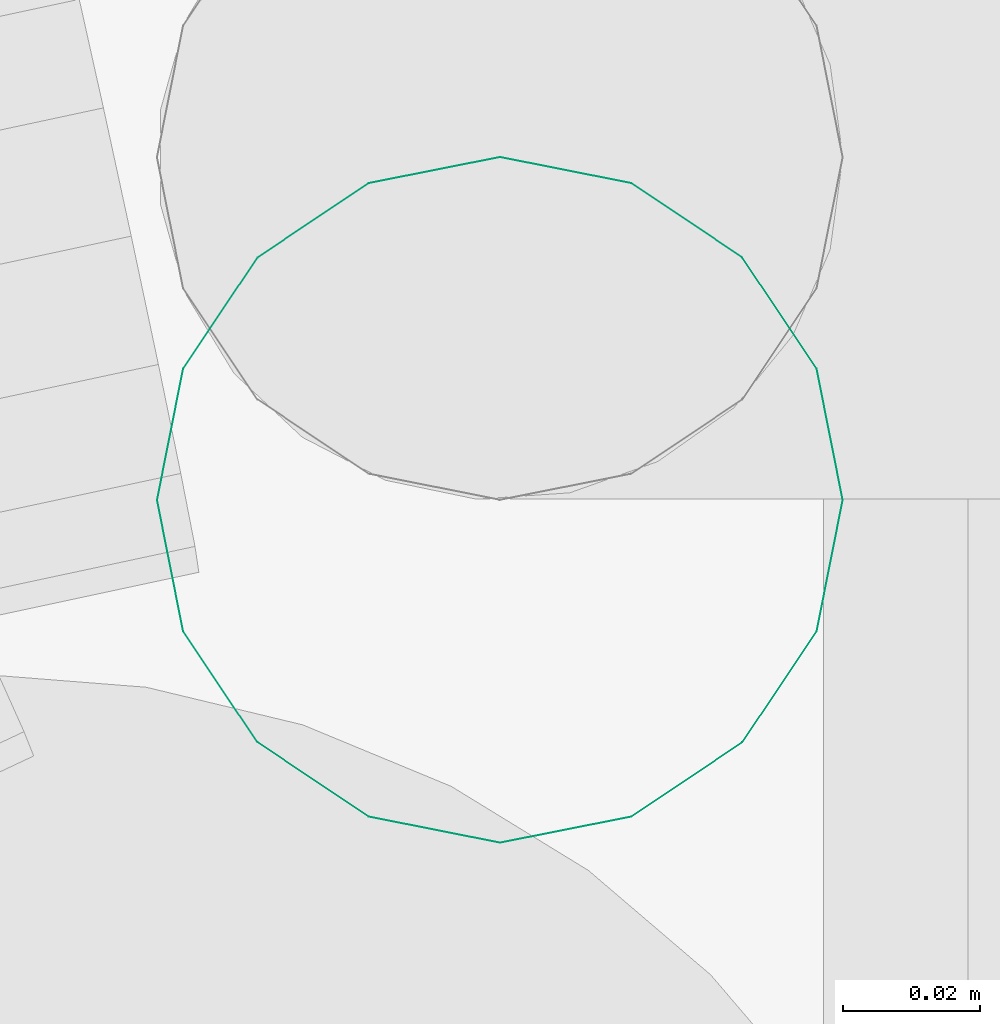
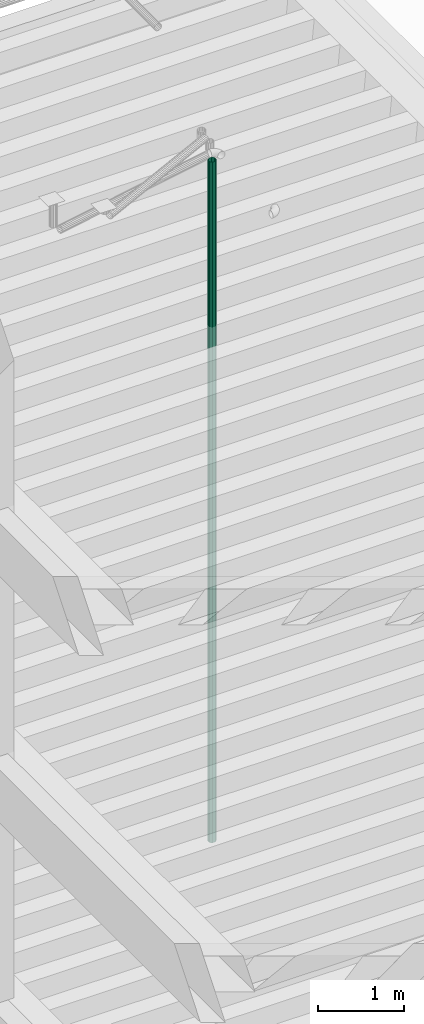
# One storey, part 44 of 106: 1 flow segment.
"""IFC2X3 building model written with IfcOpenShell, lengths in metres."""

from ifc_helpers import new_model, entity, si_unit, converted_unit, derived_unit, money_unit, direction, frame, origin_with_axes, place, context, subcontext, project, spatial, faceted_brep, material, type_object, element, save


model = new_model("IFC2X3")

# Units and contexts
model_context = context("Model", 3, precision=1e-05, world=origin_with_axes(), true_north=direction((0.0, 1.0)))
body_context = subcontext(model_context, "Body", "Model", "MODEL_VIEW", scale=1.0)
ifc_project = project(units=[si_unit("LENGTHUNIT", "METRE"), si_unit("AREAUNIT", "SQUARE_METRE"), si_unit("VOLUMEUNIT", "CUBIC_METRE"), si_unit("ABSORBEDDOSEUNIT", "GRAY"), si_unit("AMOUNTOFSUBSTANCEUNIT", "MOLE"), si_unit("DOSEEQUIVALENTUNIT", "SIEVERT"), si_unit("ELECTRICCAPACITANCEUNIT", "FARAD"), si_unit("ELECTRICCHARGEUNIT", "COULOMB"), si_unit("ELECTRICCONDUCTANCEUNIT", "SIEMENS"), si_unit("ELECTRICCURRENTUNIT", "AMPERE"), si_unit("ELECTRICRESISTANCEUNIT", "OHM"), si_unit("ELECTRICVOLTAGEUNIT", "VOLT"), si_unit("ENERGYUNIT", "JOULE"), si_unit("FORCEUNIT", "NEWTON"), si_unit("FREQUENCYUNIT", "HERTZ"), si_unit("ILLUMINANCEUNIT", "LUX"), si_unit("INDUCTANCEUNIT", "HENRY"), si_unit("LUMINOUSFLUXUNIT", "LUMEN"), si_unit("LUMINOUSINTENSITYUNIT", "CANDELA"), si_unit("MAGNETICFLUXDENSITYUNIT", "TESLA"), si_unit("MAGNETICFLUXUNIT", "WEBER"), si_unit("MASSUNIT", "GRAM"), converted_unit("PLANEANGLEUNIT", "degree", entity("IfcReal", 0.0174532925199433), si_unit("PLANEANGLEUNIT", "RADIAN"), dimensions=[0, 0, 0, 0, 0, 0, 0]), si_unit("POWERUNIT", "WATT"), si_unit("PRESSUREUNIT", "PASCAL"), si_unit("RADIOACTIVITYUNIT", "BECQUEREL"), si_unit("SOLIDANGLEUNIT", "STERADIAN"), si_unit("THERMODYNAMICTEMPERATUREUNIT", "KELVIN"), si_unit("TIMEUNIT", "SECOND"), derived_unit("ACCELERATIONUNIT", [(si_unit("LENGTHUNIT", "METRE"), 1), (si_unit("TIMEUNIT", "SECOND"), -2)]), derived_unit("ANGULARVELOCITYUNIT", [(converted_unit("PLANEANGLEUNIT", "degree", entity("IfcReal", 0.0174532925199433), si_unit("PLANEANGLEUNIT", "RADIAN"), dimensions=[0, 0, 0, 0, 0, 0, 0]), 1), (si_unit("TIMEUNIT", "SECOND"), -1)]), derived_unit("CURVATUREUNIT", [(converted_unit("PLANEANGLEUNIT", "degree", entity("IfcReal", 0.0174532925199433), si_unit("PLANEANGLEUNIT", "RADIAN"), dimensions=[0, 0, 0, 0, 0, 0, 0]), 1), (si_unit("LENGTHUNIT", "METRE"), -1)]), derived_unit("DYNAMICVISCOSITYUNIT", [(si_unit("PRESSUREUNIT", "PASCAL"), 1), (si_unit("TIMEUNIT", "SECOND"), 1)]), derived_unit("HEATFLUXDENSITYUNIT", [(si_unit("POWERUNIT", "WATT"), 1), (si_unit("LENGTHUNIT", "METRE"), -2)]), derived_unit("HEATINGVALUEUNIT", [(si_unit("ENERGYUNIT", "JOULE"), 1), (si_unit("MASSUNIT", "GRAM"), -1)]), derived_unit("INTEGERCOUNTRATEUNIT", [(si_unit("TIMEUNIT", "SECOND"), -1)]), derived_unit("IONCONCENTRATIONUNIT", [(si_unit("MASSUNIT", "GRAM"), 1), (si_unit("VOLUMEUNIT", "CUBIC_METRE"), -1)]), derived_unit("ISOTHERMALMOISTURECAPACITYUNIT", [(si_unit("VOLUMEUNIT", "CUBIC_METRE"), 1), (si_unit("MASSUNIT", "GRAM"), -1)]), derived_unit("KINEMATICVISCOSITYUNIT", [(si_unit("AREAUNIT", "SQUARE_METRE"), 1), (si_unit("TIMEUNIT", "SECOND"), -1)]), derived_unit("LINEARFORCEUNIT", [(si_unit("FORCEUNIT", "NEWTON"), 1), (si_unit("LENGTHUNIT", "METRE"), -1)]), derived_unit("LINEARMOMENTUNIT", [(si_unit("FORCEUNIT", "NEWTON"), 1), (si_unit("LENGTHUNIT", "METRE"), -1)]), derived_unit("LINEARSTIFFNESSUNIT", [(si_unit("FORCEUNIT", "NEWTON"), 1), (si_unit("LENGTHUNIT", "METRE"), -1)]), derived_unit("LINEARVELOCITYUNIT", [(si_unit("LENGTHUNIT", "METRE"), 1), (si_unit("TIMEUNIT", "SECOND"), -1)]), derived_unit("LUMINOUSINTENSITYDISTRIBUTIONUNIT", [(si_unit("LUMINOUSINTENSITYUNIT", "CANDELA"), 1), (si_unit("LUMINOUSFLUXUNIT", "LUMEN"), -1)]), derived_unit("MASSDENSITYUNIT", [(si_unit("MASSUNIT", "GRAM"), 1), (si_unit("VOLUMEUNIT", "CUBIC_METRE"), -1)]), derived_unit("MASSFLOWRATEUNIT", [(si_unit("MASSUNIT", "GRAM"), 1), (si_unit("TIMEUNIT", "SECOND"), -1)]), derived_unit("MASSPERLENGTHUNIT", [(si_unit("MASSUNIT", "GRAM"), 1), (si_unit("LENGTHUNIT", "METRE"), -1)]), derived_unit("MODULUSOFELASTICITYUNIT", [(si_unit("FORCEUNIT", "NEWTON"), 1), (si_unit("AREAUNIT", "SQUARE_METRE"), -1)]), derived_unit("MODULUSOFLINEARSUBGRADEREACTIONUNIT", [(si_unit("FORCEUNIT", "NEWTON"), 1), (si_unit("LENGTHUNIT", "METRE"), -2)]), derived_unit("MODULUSOFROTATIONALSUBGRADEREACTIONUNIT", [(si_unit("FORCEUNIT", "NEWTON"), 1), (si_unit("LENGTHUNIT", "METRE"), 1)]), derived_unit("MODULUSOFSUBGRADEREACTIONUNIT", [(si_unit("FORCEUNIT", "NEWTON"), 1), (si_unit("VOLUMEUNIT", "CUBIC_METRE"), -1)]), derived_unit("MOISTUREDIFFUSIVITYUNIT", [(si_unit("VOLUMEUNIT", "CUBIC_METRE"), 1), (si_unit("TIMEUNIT", "SECOND"), -1)]), derived_unit("MOLECULARWEIGHTUNIT", [(si_unit("MASSUNIT", "GRAM"), 1), (si_unit("AMOUNTOFSUBSTANCEUNIT", "MOLE"), -1)]), derived_unit("PLANARFORCEUNIT", [(si_unit("FORCEUNIT", "NEWTON"), 1), (si_unit("LENGTHUNIT", "METRE"), -2)]), derived_unit("ROTATIONALFREQUENCYUNIT", [(si_unit("TIMEUNIT", "SECOND"), -1)]), derived_unit("ROTATIONALMASSUNIT", [(si_unit("MASSUNIT", "GRAM"), 1), (si_unit("LENGTHUNIT", "METRE"), 2)]), derived_unit("ROTATIONALSTIFFNESSUNIT", [(si_unit("FORCEUNIT", "NEWTON"), 1), (si_unit("LENGTHUNIT", "METRE"), 1), (converted_unit("PLANEANGLEUNIT", "degree", entity("IfcReal", 0.0174532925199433), si_unit("PLANEANGLEUNIT", "RADIAN"), dimensions=[0, 0, 0, 0, 0, 0, 0]), -1)]), derived_unit("SECTIONAREAINTEGRALUNIT", [(si_unit("LENGTHUNIT", "METRE"), 5)]), derived_unit("SECTIONMODULUSUNIT", [(si_unit("LENGTHUNIT", "METRE"), 3)]), derived_unit("SHEARMODULUSUNIT", [(si_unit("FORCEUNIT", "NEWTON"), 1), (si_unit("AREAUNIT", "SQUARE_METRE"), -1)]), derived_unit("SOUNDPOWERUNIT", [(si_unit("ENERGYUNIT", "JOULE"), 1), (si_unit("TIMEUNIT", "SECOND"), -1)]), derived_unit("SPECIFICHEATCAPACITYUNIT", [(si_unit("FORCEUNIT", "NEWTON"), 1), (si_unit("MASSUNIT", "GRAM"), -1), (si_unit("THERMODYNAMICTEMPERATUREUNIT", "KELVIN"), -1)]), derived_unit("TEMPERATUREGRADIENTUNIT", [(si_unit("THERMODYNAMICTEMPERATUREUNIT", "KELVIN"), 1), (si_unit("LENGTHUNIT", "METRE"), -1)]), derived_unit("THERMALADMITTANCEUNIT", [(si_unit("POWERUNIT", "WATT"), 1), (si_unit("AREAUNIT", "SQUARE_METRE"), -1), (si_unit("THERMODYNAMICTEMPERATUREUNIT", "KELVIN"), -1)]), derived_unit("THERMALCONDUCTANCEUNIT", [(si_unit("POWERUNIT", "WATT"), 1), (si_unit("LENGTHUNIT", "METRE"), -1), (si_unit("THERMODYNAMICTEMPERATUREUNIT", "KELVIN"), -1)]), derived_unit("THERMALEXPANSIONCOEFFICIENTUNIT", [(si_unit("THERMODYNAMICTEMPERATUREUNIT", "KELVIN"), -1)]), derived_unit("THERMALRESISTANCEUNIT", [(si_unit("AREAUNIT", "SQUARE_METRE"), 1), (si_unit("POWERUNIT", "WATT"), -1)]), derived_unit("THERMALTRANSMITTANCEUNIT", [(si_unit("POWERUNIT", "WATT"), 1), (si_unit("AREAUNIT", "SQUARE_METRE"), -1), (si_unit("THERMODYNAMICTEMPERATUREUNIT", "KELVIN"), -1)]), derived_unit("TORQUEUNIT", [(si_unit("FORCEUNIT", "NEWTON"), 1), (si_unit("LENGTHUNIT", "METRE"), 1)]), derived_unit("VAPORPERMEABILITYUNIT", [(si_unit("MASSUNIT", "GRAM"), 1), (si_unit("TIMEUNIT", "SECOND"), -1)]), derived_unit("VOLUMETRICFLOWRATEUNIT", [(si_unit("VOLUMEUNIT", "CUBIC_METRE"), 1), (si_unit("TIMEUNIT", "SECOND"), -1)]), derived_unit("WARPINGCONSTANTUNIT", [(si_unit("LENGTHUNIT", "METRE"), 6)]), derived_unit("WARPINGMOMENTUNIT", [(si_unit("FORCEUNIT", "NEWTON"), 1), (si_unit("LENGTHUNIT", "METRE"), 2)]), money_unit("GBP")], contexts=[model_context])

# Site, building, storey
site_placement = place(None, origin_with_axes())
site = spatial("IfcSite", under=ifc_project, at=site_placement, Name="Site", CompositionType="ELEMENT")
building_placement = place(site_placement, origin_with_axes())
building = spatial("IfcBuilding", under=site, at=building_placement, Name="Building01", CompositionType="ELEMENT")
storey_placement = place(building_placement, origin_with_axes())
storey = spatial("IfcBuildingStorey", under=building, at=storey_placement, Name="GF", CompositionType="ELEMENT", Elevation=0.0)

# Flow segment
ifc_material = material(Name="M_BSUK_ColdWater")
pipe_segment_type = type_object("IfcPipeSegmentType", Name="M-BmpStraightpipe-DefaultPipe", PredefinedType="RIGIDSEGMENT")
flow_segment_placement = place(storey_placement, frame((4.31573, 8.11317, 14.42012), z_axis=(1.0, 0.0, 0.0), x_axis=(0.0, 0.0, -1.0)))
element("IfcFlowSegment", 1, at=flow_segment_placement, inside=storey, type_object=pipe_segment_type, material=ifc_material, Name="M-BmpStraightpipe-DefaultPipe", ObjectType="M-BmpStraightpipe-DefaultPipe", context=body_context, shape_type="Brep", body=[
    faceted_brep([(9.644602, 0.0, -0.05), (0.0, 0.0, -0.05), (0.0, 0.019134, -0.046194), (9.644602, 0.019134, -0.046194), (0.0, 0.035355, -0.035355), (9.644602, 0.035355, -0.035355), (0.0, 0.046194, -0.019134), (9.644602, 0.046194, -0.019134), (0.0, 0.05, 0.0), (9.644602, 0.05, 0.0), (0.0, 0.046194, 0.019134), (9.644602, 0.046194, 0.019134), (0.0, 0.035355, 0.035355), (9.644602, 0.035355, 0.035355), (0.0, 0.019134, 0.046194), (9.644602, 0.019134, 0.046194), (0.0, 0.0, 0.05), (9.644602, 0.0, 0.05), (0.0, -0.019134, 0.046194), (9.644602, -0.019134, 0.046194), (0.0, -0.035355, 0.035355), (9.644602, -0.035355, 0.035355), (0.0, -0.046194, 0.019134), (9.644602, -0.046194, 0.019134), (0.0, -0.05, 0.0), (9.644602, -0.05, 0.0), (0.0, -0.046194, -0.019134), (9.644602, -0.046194, -0.019134), (0.0, -0.035355, -0.035355), (9.644602, -0.035355, -0.035355), (0.0, -0.019134, -0.046194), (9.644602, -0.019134, -0.046194)], [[[0, 1, 2, 3]], [[3, 2, 4, 5]], [[5, 4, 6, 7]], [[7, 6, 8, 9]], [[9, 8, 10, 11]], [[11, 10, 12, 13]], [[13, 12, 14, 15]], [[15, 14, 16, 17]], [[17, 16, 18, 19]], [[19, 18, 20, 21]], [[21, 20, 22, 23]], [[23, 22, 24, 25]], [[25, 24, 26, 27]], [[27, 26, 28, 29]], [[29, 28, 30, 31]], [[31, 30, 1, 0]]]),
])

save(model, "model.ifc")
